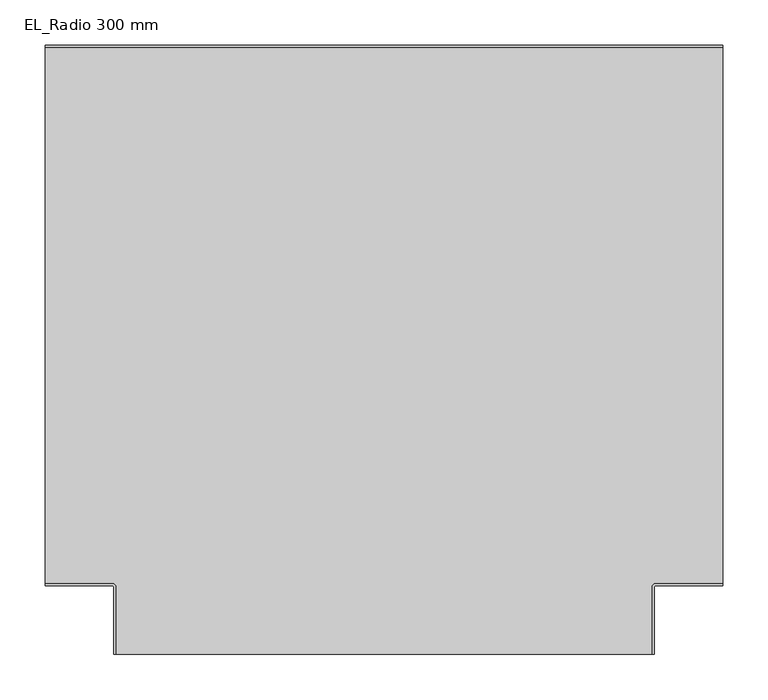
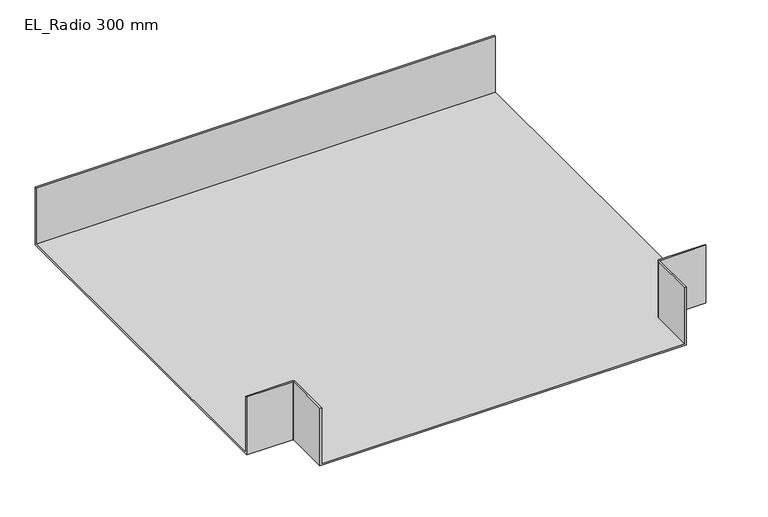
"""IFC4 building model written with IfcOpenShell, lengths in millimetres: cable carrier fitting geometry, M_Te horizontal de canal : EL_Radio 300 mm."""

from ifc_helpers import new_model, si_unit, frame, origin, place, context, project, spatial, polyline, circle_curve, source, transform, mapped, element, save
from ifc_brep_helpers import plane_surface, cylinder_surface, revolved_surface, advanced_brep


def el_radio_300_mm_80008d8d(model_context):
    return source(origin(), model_context, "Body", "AdvancedBrep", [
        advanced_brep(
        [(-300.0, -301.0, 50.0), (-300.0, -376.0, 50.0), (-297.46, -376.0, 50.0), (-297.46, -301.0, 50.0), (-301.0, -297.46, 50.0), (-376.0, -297.46, 50.0), (-376.0, -300.0, 50.0), (-301.0, -300.0, 50.0), (300.0, -301.0, 50.0), (301.0, -300.0, 50.0), (376.0, -300.0, 50.0), (376.0, -297.46, 50.0), (301.0, -297.46, 50.0), (297.46, -301.0, 50.0), (297.46, -376.0, 50.0), (300.0, -376.0, 50.0), (376.0, 300.0, 50.0), (-376.0, 300.0, 50.0), (-376.0, 297.46, 50.0), (376.0, 297.46, 50.0), (-300.0, -301.0, -50.0), (-301.0, -300.0, -50.0), (-376.0, -300.0, -50.0), (-376.0, 300.0, -50.0), (376.0, 300.0, -50.0), (376.0, -300.0, -50.0), (301.0, -300.0, -50.0), (300.0, -301.0, -50.0), (300.0, -376.0, -50.0), (-300.0, -376.0, -50.0), (-300.0, -301.0, -47.46), (297.46, -376.0, -47.46), (-297.46, -376.0, -47.46), (-297.46, -301.0, -47.46), (-301.0, -297.46, -47.46), (-376.0, -297.46, -47.46), (-376.0, 297.46, -47.46), (-301.0, -300.0, -47.46), (300.0, -301.0, -47.46), (301.0, -300.0, -47.46), (376.0, 297.46, -47.46), (376.0, -297.46, -47.46), (301.0, -297.46, -47.46), (297.46, -301.0, -47.46)],
        [
            (0, 1),
            (1, 2),
            (2, 3),
            (3, 4, circle_curve(frame((-301.0, -301.0, 50.0), z_axis=(0.0, 0.0, 1.0), x_axis=(1.0, 0.0, 0.0)), 3.54)),
            (4, 5),
            (5, 6),
            (6, 7),
            (7, 0, circle_curve(frame((-301.0, -301.0, 50.0), z_axis=(0.0, 0.0, -1.0), x_axis=(1.0, 0.0, 0.0)), 1.0)),
            (8, 9, circle_curve(frame((301.0, -301.0, 50.0), z_axis=(0.0, 0.0, -1.0), x_axis=(1.0, 0.0, 0.0)), 1.0)),
            (9, 10),
            (10, 11),
            (11, 12),
            (12, 13, circle_curve(frame((301.0, -301.0, 50.0), z_axis=(0.0, 0.0, 1.0), x_axis=(1.0, 0.0, 0.0)), 3.54)),
            (13, 14),
            (14, 15),
            (15, 8),
            (16, 17),
            (17, 18),
            (18, 19),
            (19, 16),
            (20, 21, circle_curve(frame((-301.0, -301.0, -50.0), z_axis=(0.0, 0.0, 1.0), x_axis=(1.0, 0.0, 0.0)), 1.0)),
            (21, 22),
            (22, 23),
            (23, 24),
            (24, 25),
            (25, 26),
            (26, 27, circle_curve(frame((301.0, -301.0, -50.0), z_axis=(0.0, 0.0, 1.0), x_axis=(1.0, 0.0, 0.0)), 1.0)),
            (27, 28),
            (28, 29),
            (29, 20),
            (29, 1),
            (0, 30),
            (30, 20),
            (28, 15),
            (14, 31),
            (31, 32),
            (32, 2),
            (32, 33),
            (33, 3),
            (33, 34, circle_curve(frame((-301.0, -301.0, -47.46), z_axis=(0.0, 0.0, 1.0), x_axis=(1.0, 0.0, 0.0)), 3.54)),
            (34, 4),
            (34, 35),
            (35, 5),
            (35, 36),
            (36, 18),
            (17, 23),
            (22, 6),
            (21, 37),
            (37, 7),
            (8, 38),
            (38, 27),
            (26, 39),
            (39, 9),
            (25, 10),
            (24, 16),
            (19, 40),
            (40, 41),
            (41, 11),
            (41, 42),
            (42, 12),
            (42, 43, circle_curve(frame((301.0, -301.0, -47.46), z_axis=(0.0, 0.0, 1.0), x_axis=(1.0, 0.0, 0.0)), 3.54)),
            (43, 13),
            (43, 31),
            (36, 40),
        ],
        [
            plane_surface(frame((-300.0, -301.0, 50.0), z_axis=(0.0, 0.0, 1.0), x_axis=(0.0, -1.0, 0.0))),
            plane_surface(frame((-300.0, -301.0, -50.0), z_axis=(0.0, 0.0, -1.0), x_axis=(0.0, 1.0, 0.0))),
            plane_surface(frame((-300.0, -301.0, 50.0), z_axis=(-1.0, 0.0, 0.0), x_axis=(0.0, 0.0, -1.0))),
            plane_surface(frame((-300.0, -376.0, 50.0), z_axis=(0.0, -1.0, 0.0), x_axis=(0.0, 0.0, -1.0))),
            plane_surface(frame((-297.46, -376.0, 50.0), z_axis=(1.0, 0.0, 0.0), x_axis=(0.0, 0.0, -1.0))),
            cylinder_surface(frame((-301.0, -301.0, -50.0), z_axis=(0.0, 0.0, 1.0), x_axis=(1.0, 0.0, 0.0)), 3.54),
            plane_surface(frame((-301.0, -297.46, 50.0), z_axis=(0.0, 1.0, 0.0), x_axis=(0.0, 0.0, -1.0))),
            plane_surface(frame((-376.0, -297.46, 50.0), z_axis=(-1.0, 0.0, 0.0), x_axis=(0.0, 0.0, -1.0))),
            plane_surface(frame((-376.0, -300.0, 50.0), z_axis=(0.0, -1.0, 0.0), x_axis=(0.0, 0.0, -1.0))),
            revolved_surface(polyline([(-300.0, -301.0, -50.0), (-300.0, -301.0, 50.0)]), (-301.0, -301.0, -50.0), (0.0, 0.0, -1.0)),
            revolved_surface(polyline([(302.0, -301.0, -50.0), (302.0, -301.0, 50.0)]), (301.0, -301.0, 0.0), (0.0, 0.0, -1.0)),
            plane_surface(frame((301.0, -300.0, 50.0), z_axis=(0.0, -1.0, 0.0), x_axis=(0.0, 0.0, -1.0))),
            plane_surface(frame((376.0, -300.0, 50.0), z_axis=(1.0, 0.0, 0.0), x_axis=(0.0, 0.0, -1.0))),
            plane_surface(frame((376.0, -297.46, 50.0), z_axis=(0.0, 1.0, 0.0), x_axis=(0.0, 0.0, -1.0))),
            cylinder_surface(frame((301.0, -301.0, 0.0), z_axis=(0.0, 0.0, 1.0), x_axis=(1.0, 0.0, 0.0)), 3.54),
            plane_surface(frame((297.46, -301.0, 50.0), z_axis=(-1.0, 0.0, 0.0), x_axis=(0.0, 0.0, -1.0))),
            plane_surface(frame((300.0, -376.0, 50.0), z_axis=(1.0, 0.0, 0.0), x_axis=(0.0, 0.0, -1.0))),
            plane_surface(frame((376.0, 300.0, 50.0), z_axis=(0.0, 1.0, 0.0), x_axis=(0.0, 0.0, -1.0))),
            plane_surface(frame((-376.0, 297.46, 50.0), z_axis=(0.0, -1.0, 0.0), x_axis=(0.0, 0.0, -1.0))),
            plane_surface(frame((-300.0, -301.0, -47.46), z_axis=(0.0, 0.0, 1.0), x_axis=(0.0, -1.0, 0.0))),
        ],
        [
            (0, [[1, 2, 3, 4, 5, 6, 7, 8]]),
            (0, [[9, 10, 11, 12, 13, 14, 15, 16]]),
            (0, [[17, 18, 19, 20]]),
            (1, [[21, 22, 23, 24, 25, 26, 27, 28, 29, 30]]),
            (2, [[31, -1, 32, 33, -30]]),
            (3, [[-2, -31, -29, 34, -15, 35, 36, 37]]),
            (4, [[-3, -37, 38, 39]]),
            (5, [[-4, -39, 40, 41]]),
            (6, [[-5, -41, 42, 43]]),
            (7, [[-6, -43, 44, 45, -18, 46, -23, 47]]),
            (8, [[-7, -47, -22, 48, 49]]),
            (9, [[-8, -49, -48, -21, -33, -32]]),
            (10, [[-9, 50, 51, -27, 52, 53]]),
            (11, [[54, -10, -53, -52, -26]]),
            (12, [[-11, -54, -25, 55, -20, 56, 57, 58]]),
            (13, [[-12, -58, 59, 60]]),
            (14, [[-13, -60, 61, 62]]),
            (15, [[-14, -62, 63, -35]]),
            (16, [[-16, -34, -28, -51, -50]]),
            (17, [[-46, -17, -55, -24]]),
            (18, [[-19, -45, 64, -56]]),
            (19, [[-36, -63, -61, -59, -57, -64, -44, -42, -40, -38]]),
        ],
    ),
    ])


if __name__ == "__main__":
    model = new_model("IFC4")
    model_context = context("Model", 3, world=origin())
    ifc_project = project(units=[si_unit("LENGTHUNIT", "METRE", prefix="MILLI")], contexts=[model_context])
    site = spatial("IfcSite", under=ifc_project)
    building = spatial("IfcBuilding", under=site)
    placement = place(None, origin())
    el_radio_300_mm_shape = el_radio_300_mm_80008d8d(model_context)
    element("IfcCableCarrierFitting", 1, ObjectType="M_Te horizontal de canal : EL_Radio 300 mm", at=placement, inside=building, context=model_context, shape_type="MappedRepresentation", body=[
        mapped(el_radio_300_mm_shape, transform((0.0, 0.0, 0.0), x_axis=(1.0, 0.0, 0.0), y_axis=(0.0, 1.0, 0.0), z_axis=(0.0, 0.0, 1.0))),
    ])
    save(model, "model.ifc")
